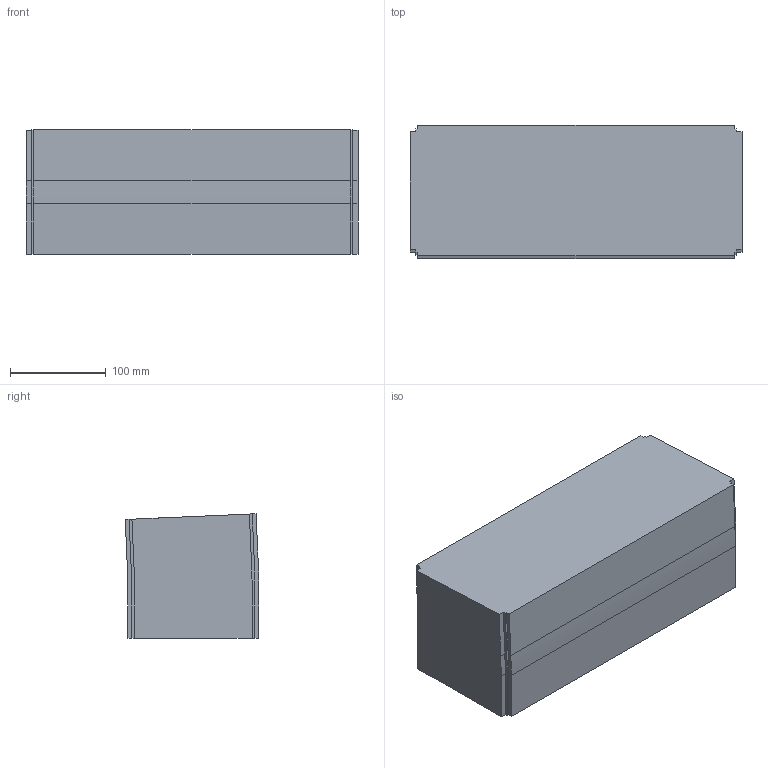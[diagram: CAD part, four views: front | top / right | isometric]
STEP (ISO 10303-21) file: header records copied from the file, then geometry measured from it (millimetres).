
FILE_DESCRIPTION (( 'STEP AP214' ), '1' );
FILE_NAME ('FS-MTC2-150-INOX verticaalbocht.350 2,5°.STEP', '2017-02-08T12:41:55', ( '' ), ( '' ), 'SwSTEP 2.0', 'SolidWorks 2016', '' );
FILE_SCHEMA (( 'AUTOMOTIVE_DESIGN' ));
Length unit declared in the file: millimetre
Products named in the file (1): FS-MTC2-150-INOX verticaalbocht.350 2,5°
Bounding box: 346 x 139.2 x 129.74 mm (x, y, z)
Volume: 5964261.5 mm3; surface area: 216439.2 mm2
Topology: 1 solids, 1 shells, 42 faces, 120 edges, 80 vertices
Faces by surface type: plane 32, cylinder 10
Entity records: 1398 total; most frequent: CARTESIAN_POINT 243, ORIENTED_EDGE 240, DIRECTION 226, EDGE_CURVE 120, VECTOR 100, LINE 100, VERTEX_POINT 80, AXIS2_PLACEMENT_3D 63
